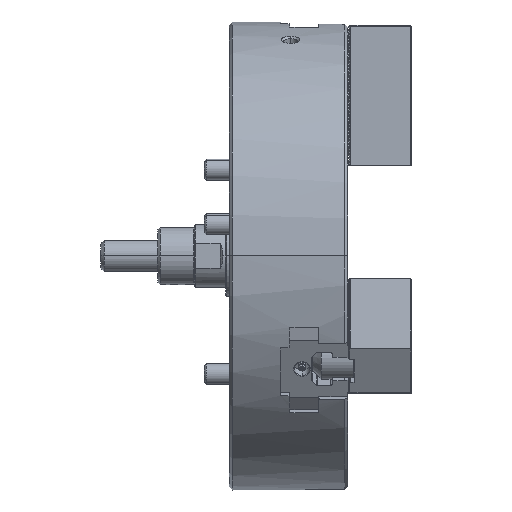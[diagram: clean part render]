
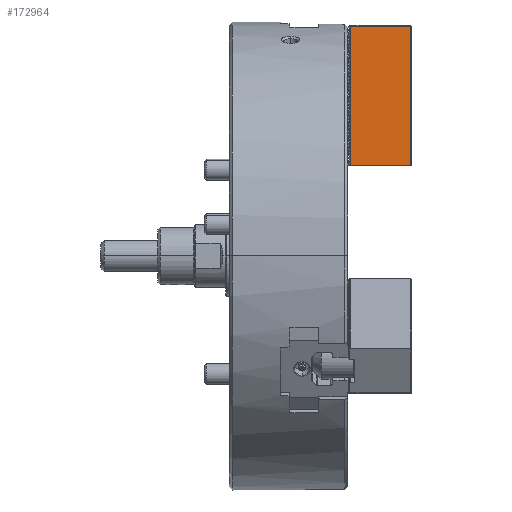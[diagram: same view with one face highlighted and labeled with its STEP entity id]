
A CAD part, top view. The second image highlights one B-rep face of the part: STEP entity #172964.
In plain terms, the highlighted planar face has unit normal (0, 0, 1).
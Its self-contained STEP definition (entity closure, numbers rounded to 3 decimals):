
#11756 = CARTESIAN_POINT ( 'NONE',  ( 60., 0.6, 25. ) ) ;
#13635 = LINE ( 'NONE', #47333, #17500 ) ;
#17500 = VECTOR ( 'NONE', #138005, 1000. ) ;
#27100 = DIRECTION ( 'NONE',  ( -1., 0., 0. ) ) ;
#29294 = ORIENTED_EDGE ( 'NONE', *, *, #49079, .F. ) ;
#32770 = EDGE_CURVE ( 'NONE', #61693, #160929, #181421, .T. ) ;
#35991 = DIRECTION ( 'NONE',  ( 0., 1., 0. ) ) ;
#47333 = CARTESIAN_POINT ( 'NONE',  ( 1.4, 0., 25. ) ) ;
#48359 = ORIENTED_EDGE ( 'NONE', *, *, #144658, .T. ) ;
#49079 = EDGE_CURVE ( 'NONE', #73833, #130209, #61760, .T. ) ;
#50292 = PLANE ( 'NONE',  #185331 ) ;
#59309 = VECTOR ( 'NONE', #174975, 1000. ) ;
#60692 = CARTESIAN_POINT ( 'NONE',  ( 1.4, 134.4, 25. ) ) ;
#61693 = VERTEX_POINT ( 'NONE', #142617 ) ;
#61760 = LINE ( 'NONE', #11756, #200287 ) ;
#73833 = VERTEX_POINT ( 'NONE', #183486 ) ;
#79239 = CARTESIAN_POINT ( 'NONE',  ( 59.4, 134.4, 25. ) ) ;
#83054 = ORIENTED_EDGE ( 'NONE', *, *, #87822, .F. ) ;
#87822 = EDGE_CURVE ( 'NONE', #130209, #160929, #13635, .T. ) ;
#97166 = DIRECTION ( 'NONE',  ( 0., 0., -1. ) ) ;
#113511 = DIRECTION ( 'NONE',  ( -1., 0., 0. ) ) ;
#120275 = CARTESIAN_POINT ( 'NONE',  ( 60., 134.4, 25. ) ) ;
#130209 = VERTEX_POINT ( 'NONE', #167536 ) ;
#138005 = DIRECTION ( 'NONE',  ( 0., 1., 0. ) ) ;
#142617 = CARTESIAN_POINT ( 'NONE',  ( 59.4, 134.4, 25. ) ) ;
#142978 = CARTESIAN_POINT ( 'NONE',  ( 60., 0.6, 25. ) ) ;
#144658 = EDGE_CURVE ( 'NONE', #73833, #61693, #156654, .T. ) ;
#156654 = LINE ( 'NONE', #79239, #59309 ) ;
#157832 = VECTOR ( 'NONE', #113511, 1000. ) ;
#160929 = VERTEX_POINT ( 'NONE', #60692 ) ;
#167536 = CARTESIAN_POINT ( 'NONE',  ( 1.4, 0.6, 25. ) ) ;
#172661 = ORIENTED_EDGE ( 'NONE', *, *, #32770, .T. ) ;
#172964 = ADVANCED_FACE ( 'NONE', ( #175593 ), #50292, .F. ) ;
#174975 = DIRECTION ( 'NONE',  ( 0., 1., 0. ) ) ;
#175593 = FACE_OUTER_BOUND ( 'NONE', #195428, .T. ) ;
#181421 = LINE ( 'NONE', #120275, #157832 ) ;
#183486 = CARTESIAN_POINT ( 'NONE',  ( 59.4, 0.6, 25. ) ) ;
#185331 = AXIS2_PLACEMENT_3D ( 'NONE', #142978, #97166, #35991 ) ;
#195428 = EDGE_LOOP ( 'NONE', ( #29294, #48359, #172661, #83054 ) ) ;
#200287 = VECTOR ( 'NONE', #27100, 1000. ) ;
